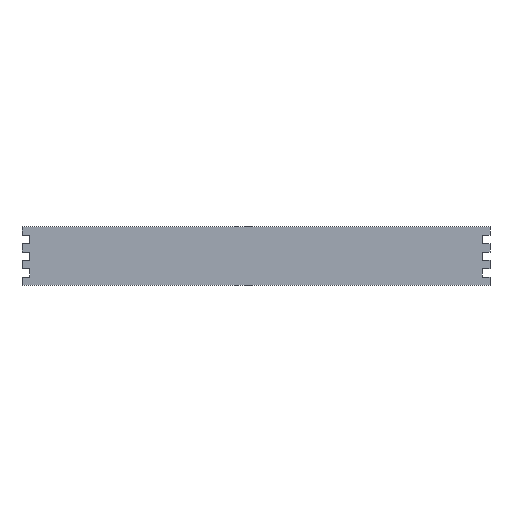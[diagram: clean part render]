
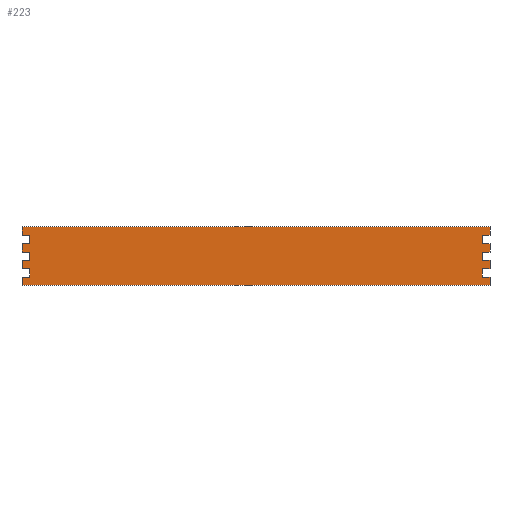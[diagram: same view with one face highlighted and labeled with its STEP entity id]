
A CAD part, top view. The second image highlights one B-rep face of the part: STEP entity #223.
In plain terms, the highlighted free-form (B-spline) face has degree [1, 1] with [2, 2] control points.
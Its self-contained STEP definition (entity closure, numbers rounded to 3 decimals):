
#223=ADVANCED_FACE('',(#253),#621,.T.);
#253=FACE_OUTER_BOUND('',#283,.T.);
#283=EDGE_LOOP('',(#424,#425,#426,#427,#428,#429,#430,#431,#432,#433,#434,
#435,#436,#437,#438,#439,#440,#441,#442,#443,#444,#445,#446,#447,#448,#449,
#450,#451));
#424=ORIENTED_EDGE('',*,*,#535,.F.);
#425=ORIENTED_EDGE('',*,*,#533,.F.);
#426=ORIENTED_EDGE('',*,*,#531,.F.);
#427=ORIENTED_EDGE('',*,*,#529,.F.);
#428=ORIENTED_EDGE('',*,*,#527,.F.);
#429=ORIENTED_EDGE('',*,*,#525,.F.);
#430=ORIENTED_EDGE('',*,*,#523,.F.);
#431=ORIENTED_EDGE('',*,*,#521,.F.);
#432=ORIENTED_EDGE('',*,*,#519,.F.);
#433=ORIENTED_EDGE('',*,*,#517,.F.);
#434=ORIENTED_EDGE('',*,*,#515,.F.);
#435=ORIENTED_EDGE('',*,*,#513,.F.);
#436=ORIENTED_EDGE('',*,*,#511,.F.);
#437=ORIENTED_EDGE('',*,*,#509,.F.);
#438=ORIENTED_EDGE('',*,*,#507,.F.);
#439=ORIENTED_EDGE('',*,*,#505,.F.);
#440=ORIENTED_EDGE('',*,*,#503,.F.);
#441=ORIENTED_EDGE('',*,*,#501,.F.);
#442=ORIENTED_EDGE('',*,*,#499,.F.);
#443=ORIENTED_EDGE('',*,*,#497,.F.);
#444=ORIENTED_EDGE('',*,*,#495,.F.);
#445=ORIENTED_EDGE('',*,*,#493,.F.);
#446=ORIENTED_EDGE('',*,*,#491,.F.);
#447=ORIENTED_EDGE('',*,*,#489,.F.);
#448=ORIENTED_EDGE('',*,*,#487,.F.);
#449=ORIENTED_EDGE('',*,*,#485,.F.);
#450=ORIENTED_EDGE('',*,*,#483,.F.);
#451=ORIENTED_EDGE('',*,*,#481,.F.);
#481=EDGE_CURVE('',#564,#565,#1023,.T.);
#483=EDGE_CURVE('',#565,#566,#1025,.T.);
#485=EDGE_CURVE('',#566,#567,#1027,.T.);
#487=EDGE_CURVE('',#567,#568,#1029,.T.);
#489=EDGE_CURVE('',#568,#569,#1031,.T.);
#491=EDGE_CURVE('',#569,#570,#1033,.T.);
#493=EDGE_CURVE('',#570,#571,#1035,.T.);
#495=EDGE_CURVE('',#571,#572,#1037,.T.);
#497=EDGE_CURVE('',#572,#573,#1039,.T.);
#499=EDGE_CURVE('',#573,#574,#1041,.T.);
#501=EDGE_CURVE('',#574,#575,#1043,.T.);
#503=EDGE_CURVE('',#575,#576,#1045,.T.);
#505=EDGE_CURVE('',#576,#577,#1047,.T.);
#507=EDGE_CURVE('',#577,#578,#1049,.T.);
#509=EDGE_CURVE('',#578,#579,#1051,.T.);
#511=EDGE_CURVE('',#579,#580,#1053,.T.);
#513=EDGE_CURVE('',#580,#581,#1055,.T.);
#515=EDGE_CURVE('',#581,#582,#1057,.T.);
#517=EDGE_CURVE('',#582,#583,#1059,.T.);
#519=EDGE_CURVE('',#583,#584,#1061,.T.);
#521=EDGE_CURVE('',#584,#585,#1063,.T.);
#523=EDGE_CURVE('',#585,#586,#1065,.T.);
#525=EDGE_CURVE('',#586,#587,#1067,.T.);
#527=EDGE_CURVE('',#587,#588,#1069,.T.);
#529=EDGE_CURVE('',#588,#589,#1071,.T.);
#531=EDGE_CURVE('',#589,#590,#1073,.T.);
#533=EDGE_CURVE('',#590,#591,#1075,.T.);
#535=EDGE_CURVE('',#591,#564,#1077,.T.);
#564=VERTEX_POINT('',#938);
#565=VERTEX_POINT('',#939);
#566=VERTEX_POINT('',#940);
#567=VERTEX_POINT('',#941);
#568=VERTEX_POINT('',#942);
#569=VERTEX_POINT('',#943);
#570=VERTEX_POINT('',#944);
#571=VERTEX_POINT('',#945);
#572=VERTEX_POINT('',#946);
#573=VERTEX_POINT('',#947);
#574=VERTEX_POINT('',#948);
#575=VERTEX_POINT('',#949);
#576=VERTEX_POINT('',#950);
#577=VERTEX_POINT('',#951);
#578=VERTEX_POINT('',#952);
#579=VERTEX_POINT('',#953);
#580=VERTEX_POINT('',#954);
#581=VERTEX_POINT('',#955);
#582=VERTEX_POINT('',#956);
#583=VERTEX_POINT('',#957);
#584=VERTEX_POINT('',#958);
#585=VERTEX_POINT('',#959);
#586=VERTEX_POINT('',#960);
#587=VERTEX_POINT('',#961);
#588=VERTEX_POINT('',#962);
#589=VERTEX_POINT('',#963);
#590=VERTEX_POINT('',#964);
#591=VERTEX_POINT('',#965);
#621=B_SPLINE_SURFACE_WITH_KNOTS('',1,1,((#906,#907),(#908,#909)),.UNSPECIFIED.,
.F.,.F.,.F.,(2,2),(2,2),(-150.,0.),(0.,1200.),.UNSPECIFIED.);
#680=CARTESIAN_POINT('',(0.,0.,20.));
#681=CARTESIAN_POINT('',(0.,21.,20.));
#684=CARTESIAN_POINT('',(0.,21.,20.));
#685=CARTESIAN_POINT('',(20.,21.,20.));
#688=CARTESIAN_POINT('',(20.,21.,20.));
#689=CARTESIAN_POINT('',(20.,42.,20.));
#692=CARTESIAN_POINT('',(20.,42.,20.));
#693=CARTESIAN_POINT('',(0.,42.,20.));
#696=CARTESIAN_POINT('',(0.,42.,20.));
#697=CARTESIAN_POINT('',(0.,64.,20.));
#700=CARTESIAN_POINT('',(0.,64.,20.));
#701=CARTESIAN_POINT('',(20.,64.,20.));
#704=CARTESIAN_POINT('',(20.,64.,20.));
#705=CARTESIAN_POINT('',(20.,85.,20.));
#708=CARTESIAN_POINT('',(20.,85.,20.));
#709=CARTESIAN_POINT('',(0.,85.,20.));
#712=CARTESIAN_POINT('',(0.,85.,20.));
#713=CARTESIAN_POINT('',(0.,107.,20.));
#716=CARTESIAN_POINT('',(0.,107.,20.));
#717=CARTESIAN_POINT('',(20.,107.,20.));
#720=CARTESIAN_POINT('',(20.,107.,20.));
#721=CARTESIAN_POINT('',(20.,128.,20.));
#724=CARTESIAN_POINT('',(20.,128.,20.));
#725=CARTESIAN_POINT('',(0.,128.,20.));
#728=CARTESIAN_POINT('',(0.,128.,20.));
#729=CARTESIAN_POINT('',(0.,150.,20.));
#732=CARTESIAN_POINT('',(0.,150.,20.));
#733=CARTESIAN_POINT('',(1200.,150.,20.));
#736=CARTESIAN_POINT('',(1200.,150.,20.));
#737=CARTESIAN_POINT('',(1200.,128.,20.));
#740=CARTESIAN_POINT('',(1200.,128.,20.));
#741=CARTESIAN_POINT('',(1180.,128.,20.));
#744=CARTESIAN_POINT('',(1180.,128.,20.));
#745=CARTESIAN_POINT('',(1180.,107.,20.));
#748=CARTESIAN_POINT('',(1180.,107.,20.));
#749=CARTESIAN_POINT('',(1200.,107.,20.));
#752=CARTESIAN_POINT('',(1200.,107.,20.));
#753=CARTESIAN_POINT('',(1200.,85.,20.));
#756=CARTESIAN_POINT('',(1200.,85.,20.));
#757=CARTESIAN_POINT('',(1180.,85.,20.));
#760=CARTESIAN_POINT('',(1180.,85.,20.));
#761=CARTESIAN_POINT('',(1180.,64.,20.));
#764=CARTESIAN_POINT('',(1180.,64.,20.));
#765=CARTESIAN_POINT('',(1200.,64.,20.));
#768=CARTESIAN_POINT('',(1200.,64.,20.));
#769=CARTESIAN_POINT('',(1200.,42.,20.));
#772=CARTESIAN_POINT('',(1200.,42.,20.));
#773=CARTESIAN_POINT('',(1180.,42.,20.));
#776=CARTESIAN_POINT('',(1180.,42.,20.));
#777=CARTESIAN_POINT('',(1180.,21.,20.));
#780=CARTESIAN_POINT('',(1180.,21.,20.));
#781=CARTESIAN_POINT('',(1200.,21.,20.));
#784=CARTESIAN_POINT('',(1200.,21.,20.));
#785=CARTESIAN_POINT('',(1200.,0.,20.));
#788=CARTESIAN_POINT('',(1200.,0.,20.));
#789=CARTESIAN_POINT('',(0.,0.,20.));
#906=CARTESIAN_POINT('',(0.,150.,20.));
#907=CARTESIAN_POINT('',(1200.,150.,20.));
#908=CARTESIAN_POINT('',(0.,0.,20.));
#909=CARTESIAN_POINT('',(1200.,0.,20.));
#938=CARTESIAN_POINT('',(0.,0.,20.));
#939=CARTESIAN_POINT('',(0.,21.,20.));
#940=CARTESIAN_POINT('',(20.,21.,20.));
#941=CARTESIAN_POINT('',(20.,42.,20.));
#942=CARTESIAN_POINT('',(0.,42.,20.));
#943=CARTESIAN_POINT('',(0.,64.,20.));
#944=CARTESIAN_POINT('',(20.,64.,20.));
#945=CARTESIAN_POINT('',(20.,85.,20.));
#946=CARTESIAN_POINT('',(0.,85.,20.));
#947=CARTESIAN_POINT('',(0.,107.,20.));
#948=CARTESIAN_POINT('',(20.,107.,20.));
#949=CARTESIAN_POINT('',(20.,128.,20.));
#950=CARTESIAN_POINT('',(0.,128.,20.));
#951=CARTESIAN_POINT('',(0.,150.,20.));
#952=CARTESIAN_POINT('',(1200.,150.,20.));
#953=CARTESIAN_POINT('',(1200.,128.,20.));
#954=CARTESIAN_POINT('',(1180.,128.,20.));
#955=CARTESIAN_POINT('',(1180.,107.,20.));
#956=CARTESIAN_POINT('',(1200.,107.,20.));
#957=CARTESIAN_POINT('',(1200.,85.,20.));
#958=CARTESIAN_POINT('',(1180.,85.,20.));
#959=CARTESIAN_POINT('',(1180.,64.,20.));
#960=CARTESIAN_POINT('',(1200.,64.,20.));
#961=CARTESIAN_POINT('',(1200.,42.,20.));
#962=CARTESIAN_POINT('',(1180.,42.,20.));
#963=CARTESIAN_POINT('',(1180.,21.,20.));
#964=CARTESIAN_POINT('',(1200.,21.,20.));
#965=CARTESIAN_POINT('',(1200.,0.,20.));
#1023=B_SPLINE_CURVE_WITH_KNOTS('',1,(#680,#681),.UNSPECIFIED.,.F.,.F.,(2,
2),(0.,21.),.UNSPECIFIED.);
#1025=B_SPLINE_CURVE_WITH_KNOTS('',1,(#684,#685),.UNSPECIFIED.,.F.,.F.,(2,
2),(0.,20.),.UNSPECIFIED.);
#1027=B_SPLINE_CURVE_WITH_KNOTS('',1,(#688,#689),.UNSPECIFIED.,.F.,.F.,(2,
2),(0.,21.),.UNSPECIFIED.);
#1029=B_SPLINE_CURVE_WITH_KNOTS('',1,(#692,#693),.UNSPECIFIED.,.F.,.F.,(2,
2),(0.,20.),.UNSPECIFIED.);
#1031=B_SPLINE_CURVE_WITH_KNOTS('',1,(#696,#697),.UNSPECIFIED.,.F.,.F.,(2,
2),(0.,22.),.UNSPECIFIED.);
#1033=B_SPLINE_CURVE_WITH_KNOTS('',1,(#700,#701),.UNSPECIFIED.,.F.,.F.,(2,
2),(0.,20.),.UNSPECIFIED.);
#1035=B_SPLINE_CURVE_WITH_KNOTS('',1,(#704,#705),.UNSPECIFIED.,.F.,.F.,(2,
2),(0.,21.),.UNSPECIFIED.);
#1037=B_SPLINE_CURVE_WITH_KNOTS('',1,(#708,#709),.UNSPECIFIED.,.F.,.F.,(2,
2),(0.,20.),.UNSPECIFIED.);
#1039=B_SPLINE_CURVE_WITH_KNOTS('',1,(#712,#713),.UNSPECIFIED.,.F.,.F.,(2,
2),(0.,22.),.UNSPECIFIED.);
#1041=B_SPLINE_CURVE_WITH_KNOTS('',1,(#716,#717),.UNSPECIFIED.,.F.,.F.,(2,
2),(0.,20.),.UNSPECIFIED.);
#1043=B_SPLINE_CURVE_WITH_KNOTS('',1,(#720,#721),.UNSPECIFIED.,.F.,.F.,(2,
2),(0.,21.),.UNSPECIFIED.);
#1045=B_SPLINE_CURVE_WITH_KNOTS('',1,(#724,#725),.UNSPECIFIED.,.F.,.F.,(2,
2),(0.,20.),.UNSPECIFIED.);
#1047=B_SPLINE_CURVE_WITH_KNOTS('',1,(#728,#729),.UNSPECIFIED.,.F.,.F.,(2,
2),(0.,22.),.UNSPECIFIED.);
#1049=B_SPLINE_CURVE_WITH_KNOTS('',1,(#732,#733),.UNSPECIFIED.,.F.,.F.,(2,
2),(0.,1200.),.UNSPECIFIED.);
#1051=B_SPLINE_CURVE_WITH_KNOTS('',1,(#736,#737),.UNSPECIFIED.,.F.,.F.,(2,
2),(-22.,0.),.UNSPECIFIED.);
#1053=B_SPLINE_CURVE_WITH_KNOTS('',1,(#740,#741),.UNSPECIFIED.,.F.,.F.,(2,
2),(-20.,0.),.UNSPECIFIED.);
#1055=B_SPLINE_CURVE_WITH_KNOTS('',1,(#744,#745),.UNSPECIFIED.,.F.,.F.,(2,
2),(-21.,0.),.UNSPECIFIED.);
#1057=B_SPLINE_CURVE_WITH_KNOTS('',1,(#748,#749),.UNSPECIFIED.,.F.,.F.,(2,
2),(-20.,0.),.UNSPECIFIED.);
#1059=B_SPLINE_CURVE_WITH_KNOTS('',1,(#752,#753),.UNSPECIFIED.,.F.,.F.,(2,
2),(-22.,0.),.UNSPECIFIED.);
#1061=B_SPLINE_CURVE_WITH_KNOTS('',1,(#756,#757),.UNSPECIFIED.,.F.,.F.,(2,
2),(-20.,0.),.UNSPECIFIED.);
#1063=B_SPLINE_CURVE_WITH_KNOTS('',1,(#760,#761),.UNSPECIFIED.,.F.,.F.,(2,
2),(-21.,0.),.UNSPECIFIED.);
#1065=B_SPLINE_CURVE_WITH_KNOTS('',1,(#764,#765),.UNSPECIFIED.,.F.,.F.,(2,
2),(-20.,0.),.UNSPECIFIED.);
#1067=B_SPLINE_CURVE_WITH_KNOTS('',1,(#768,#769),.UNSPECIFIED.,.F.,.F.,(2,
2),(-22.,0.),.UNSPECIFIED.);
#1069=B_SPLINE_CURVE_WITH_KNOTS('',1,(#772,#773),.UNSPECIFIED.,.F.,.F.,(2,
2),(-20.,0.),.UNSPECIFIED.);
#1071=B_SPLINE_CURVE_WITH_KNOTS('',1,(#776,#777),.UNSPECIFIED.,.F.,.F.,(2,
2),(-21.,0.),.UNSPECIFIED.);
#1073=B_SPLINE_CURVE_WITH_KNOTS('',1,(#780,#781),.UNSPECIFIED.,.F.,.F.,(2,
2),(-20.,0.),.UNSPECIFIED.);
#1075=B_SPLINE_CURVE_WITH_KNOTS('',1,(#784,#785),.UNSPECIFIED.,.F.,.F.,(2,
2),(-21.,0.),.UNSPECIFIED.);
#1077=B_SPLINE_CURVE_WITH_KNOTS('',1,(#788,#789),.UNSPECIFIED.,.F.,.F.,(2,
2),(-1200.,0.),.UNSPECIFIED.);
